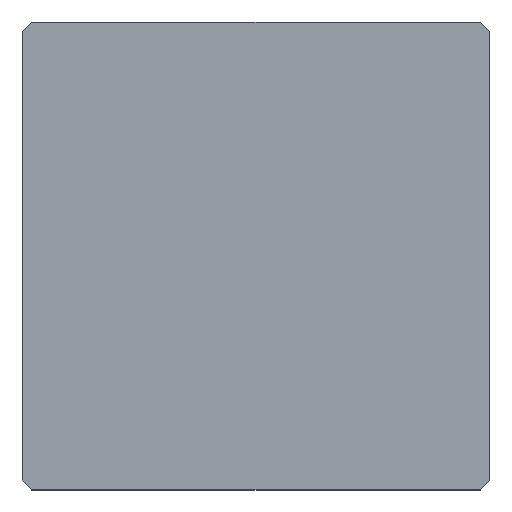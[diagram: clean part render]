
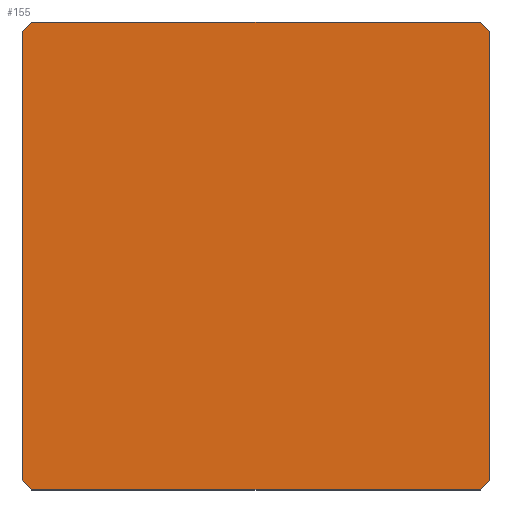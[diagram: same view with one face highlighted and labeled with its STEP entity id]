
A CAD part, top view. The second image highlights one B-rep face of the part: STEP entity #155.
In plain terms, the highlighted planar face has unit normal (0, 0, 1).
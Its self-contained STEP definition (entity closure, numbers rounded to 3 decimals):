
#39 = EDGE_CURVE('',#40,#42,#44,.T.);
#40 = VERTEX_POINT('',#41);
#41 = CARTESIAN_POINT('',(-10.,-9.6,16.75));
#42 = VERTEX_POINT('',#43);
#43 = CARTESIAN_POINT('',(-10.,9.6,16.75));
#44 = SURFACE_CURVE('',#45,(#49,#61),.PCURVE_S1.);
#45 = LINE('',#46,#47);
#46 = CARTESIAN_POINT('',(-10.,-10.,16.75));
#47 = VECTOR('',#48,1.);
#48 = DIRECTION('',(-0.,1.,0.));
#49 = PCURVE('',#50,#55);
#50 = PLANE('',#51);
#51 = AXIS2_PLACEMENT_3D('',#52,#53,#54);
#52 = CARTESIAN_POINT('',(-10.,-10.,0.));
#53 = DIRECTION('',(1.,0.,-0.));
#54 = DIRECTION('',(0.,0.,1.));
#55 = DEFINITIONAL_REPRESENTATION('',(#56),#60);
#56 = LINE('',#57,#58);
#57 = CARTESIAN_POINT('',(16.75,0.));
#58 = VECTOR('',#59,1.);
#59 = DIRECTION('',(0.,-1.));
#60 = ( GEOMETRIC_REPRESENTATION_CONTEXT(2) 
PARAMETRIC_REPRESENTATION_CONTEXT() REPRESENTATION_CONTEXT('2D SPACE',''
  ) );
#61 = PCURVE('',#62,#67);
#62 = PLANE('',#63);
#63 = AXIS2_PLACEMENT_3D('',#64,#65,#66);
#64 = CARTESIAN_POINT('',(-10.,-10.,16.75));
#65 = DIRECTION('',(0.,0.,1.));
#66 = DIRECTION('',(1.,0.,-0.));
#67 = DEFINITIONAL_REPRESENTATION('',(#68),#72);
#68 = LINE('',#69,#70);
#69 = CARTESIAN_POINT('',(0.,0.));
#70 = VECTOR('',#71,1.);
#71 = DIRECTION('',(0.,1.));
#72 = ( GEOMETRIC_REPRESENTATION_CONTEXT(2) 
PARAMETRIC_REPRESENTATION_CONTEXT() REPRESENTATION_CONTEXT('2D SPACE',''
  ) );
#90 = PLANE('',#91);
#91 = AXIS2_PLACEMENT_3D('',#92,#93,#94);
#92 = CARTESIAN_POINT('',(-9.8,-9.8,0.));
#93 = DIRECTION('',(-0.707,-0.707,0.));
#94 = DIRECTION('',(-0.,-0.,-1.));
#144 = PLANE('',#145);
#145 = AXIS2_PLACEMENT_3D('',#146,#147,#148);
#146 = CARTESIAN_POINT('',(-9.8,9.8,0.));
#147 = DIRECTION('',(0.707,-0.707,0.));
#148 = DIRECTION('',(-0.,-0.,-1.));
#155 = ADVANCED_FACE('',(#156),#62,.T.);
#156 = FACE_BOUND('',#157,.T.);
#157 = EDGE_LOOP('',(#158,#159,#182,#210,#238,#266,#294,#322));
#158 = ORIENTED_EDGE('',*,*,#39,.F.);
#159 = ORIENTED_EDGE('',*,*,#160,.T.);
#160 = EDGE_CURVE('',#40,#161,#163,.T.);
#161 = VERTEX_POINT('',#162);
#162 = CARTESIAN_POINT('',(-9.6,-10.,16.75));
#163 = SURFACE_CURVE('',#164,(#168,#175),.PCURVE_S1.);
#164 = LINE('',#165,#166);
#165 = CARTESIAN_POINT('',(-9.8,-9.8,16.75));
#166 = VECTOR('',#167,1.);
#167 = DIRECTION('',(0.707,-0.707,0.));
#168 = PCURVE('',#62,#169);
#169 = DEFINITIONAL_REPRESENTATION('',(#170),#174);
#170 = LINE('',#171,#172);
#171 = CARTESIAN_POINT('',(0.2,0.2));
#172 = VECTOR('',#173,1.);
#173 = DIRECTION('',(0.707,-0.707));
#174 = ( GEOMETRIC_REPRESENTATION_CONTEXT(2) 
PARAMETRIC_REPRESENTATION_CONTEXT() REPRESENTATION_CONTEXT('2D SPACE',''
  ) );
#175 = PCURVE('',#90,#176);
#176 = DEFINITIONAL_REPRESENTATION('',(#177),#181);
#177 = LINE('',#178,#179);
#178 = CARTESIAN_POINT('',(-16.75,0.));
#179 = VECTOR('',#180,1.);
#180 = DIRECTION('',(-0.,1.));
#181 = ( GEOMETRIC_REPRESENTATION_CONTEXT(2) 
PARAMETRIC_REPRESENTATION_CONTEXT() REPRESENTATION_CONTEXT('2D SPACE',''
  ) );
#182 = ORIENTED_EDGE('',*,*,#183,.T.);
#183 = EDGE_CURVE('',#161,#184,#186,.T.);
#184 = VERTEX_POINT('',#185);
#185 = CARTESIAN_POINT('',(9.6,-10.,16.75));
#186 = SURFACE_CURVE('',#187,(#191,#198),.PCURVE_S1.);
#187 = LINE('',#188,#189);
#188 = CARTESIAN_POINT('',(-10.,-10.,16.75));
#189 = VECTOR('',#190,1.);
#190 = DIRECTION('',(1.,0.,-0.));
#191 = PCURVE('',#62,#192);
#192 = DEFINITIONAL_REPRESENTATION('',(#193),#197);
#193 = LINE('',#194,#195);
#194 = CARTESIAN_POINT('',(0.,0.));
#195 = VECTOR('',#196,1.);
#196 = DIRECTION('',(1.,0.));
#197 = ( GEOMETRIC_REPRESENTATION_CONTEXT(2) 
PARAMETRIC_REPRESENTATION_CONTEXT() REPRESENTATION_CONTEXT('2D SPACE',''
  ) );
#198 = PCURVE('',#199,#204);
#199 = PLANE('',#200);
#200 = AXIS2_PLACEMENT_3D('',#201,#202,#203);
#201 = CARTESIAN_POINT('',(-10.,-10.,0.));
#202 = DIRECTION('',(-0.,1.,0.));
#203 = DIRECTION('',(0.,0.,1.));
#204 = DEFINITIONAL_REPRESENTATION('',(#205),#209);
#205 = LINE('',#206,#207);
#206 = CARTESIAN_POINT('',(16.75,0.));
#207 = VECTOR('',#208,1.);
#208 = DIRECTION('',(0.,1.));
#209 = ( GEOMETRIC_REPRESENTATION_CONTEXT(2) 
PARAMETRIC_REPRESENTATION_CONTEXT() REPRESENTATION_CONTEXT('2D SPACE',''
  ) );
#210 = ORIENTED_EDGE('',*,*,#211,.F.);
#211 = EDGE_CURVE('',#212,#184,#214,.T.);
#212 = VERTEX_POINT('',#213);
#213 = CARTESIAN_POINT('',(10.,-9.6,16.75));
#214 = SURFACE_CURVE('',#215,(#219,#226),.PCURVE_S1.);
#215 = LINE('',#216,#217);
#216 = CARTESIAN_POINT('',(4.8,-14.8,16.75));
#217 = VECTOR('',#218,1.);
#218 = DIRECTION('',(-0.707,-0.707,0.));
#219 = PCURVE('',#62,#220);
#220 = DEFINITIONAL_REPRESENTATION('',(#221),#225);
#221 = LINE('',#222,#223);
#222 = CARTESIAN_POINT('',(14.8,-4.8));
#223 = VECTOR('',#224,1.);
#224 = DIRECTION('',(-0.707,-0.707));
#225 = ( GEOMETRIC_REPRESENTATION_CONTEXT(2) 
PARAMETRIC_REPRESENTATION_CONTEXT() REPRESENTATION_CONTEXT('2D SPACE',''
  ) );
#226 = PCURVE('',#227,#232);
#227 = PLANE('',#228);
#228 = AXIS2_PLACEMENT_3D('',#229,#230,#231);
#229 = CARTESIAN_POINT('',(9.8,-9.8,0.));
#230 = DIRECTION('',(-0.707,0.707,0.));
#231 = DIRECTION('',(-0.,-0.,-1.));
#232 = DEFINITIONAL_REPRESENTATION('',(#233),#237);
#233 = LINE('',#234,#235);
#234 = CARTESIAN_POINT('',(-16.75,7.071));
#235 = VECTOR('',#236,1.);
#236 = DIRECTION('',(-0.,1.));
#237 = ( GEOMETRIC_REPRESENTATION_CONTEXT(2) 
PARAMETRIC_REPRESENTATION_CONTEXT() REPRESENTATION_CONTEXT('2D SPACE',''
  ) );
#238 = ORIENTED_EDGE('',*,*,#239,.T.);
#239 = EDGE_CURVE('',#212,#240,#242,.T.);
#240 = VERTEX_POINT('',#241);
#241 = CARTESIAN_POINT('',(10.,9.6,16.75));
#242 = SURFACE_CURVE('',#243,(#247,#254),.PCURVE_S1.);
#243 = LINE('',#244,#245);
#244 = CARTESIAN_POINT('',(10.,-10.,16.75));
#245 = VECTOR('',#246,1.);
#246 = DIRECTION('',(-0.,1.,0.));
#247 = PCURVE('',#62,#248);
#248 = DEFINITIONAL_REPRESENTATION('',(#249),#253);
#249 = LINE('',#250,#251);
#250 = CARTESIAN_POINT('',(20.,0.));
#251 = VECTOR('',#252,1.);
#252 = DIRECTION('',(0.,1.));
#253 = ( GEOMETRIC_REPRESENTATION_CONTEXT(2) 
PARAMETRIC_REPRESENTATION_CONTEXT() REPRESENTATION_CONTEXT('2D SPACE',''
  ) );
#254 = PCURVE('',#255,#260);
#255 = PLANE('',#256);
#256 = AXIS2_PLACEMENT_3D('',#257,#258,#259);
#257 = CARTESIAN_POINT('',(10.,-10.,0.));
#258 = DIRECTION('',(1.,0.,-0.));
#259 = DIRECTION('',(0.,0.,1.));
#260 = DEFINITIONAL_REPRESENTATION('',(#261),#265);
#261 = LINE('',#262,#263);
#262 = CARTESIAN_POINT('',(16.75,0.));
#263 = VECTOR('',#264,1.);
#264 = DIRECTION('',(0.,-1.));
#265 = ( GEOMETRIC_REPRESENTATION_CONTEXT(2) 
PARAMETRIC_REPRESENTATION_CONTEXT() REPRESENTATION_CONTEXT('2D SPACE',''
  ) );
#266 = ORIENTED_EDGE('',*,*,#267,.T.);
#267 = EDGE_CURVE('',#240,#268,#270,.T.);
#268 = VERTEX_POINT('',#269);
#269 = CARTESIAN_POINT('',(9.6,10.,16.75));
#270 = SURFACE_CURVE('',#271,(#275,#282),.PCURVE_S1.);
#271 = LINE('',#272,#273);
#272 = CARTESIAN_POINT('',(9.8,9.8,16.75));
#273 = VECTOR('',#274,1.);
#274 = DIRECTION('',(-0.707,0.707,0.));
#275 = PCURVE('',#62,#276);
#276 = DEFINITIONAL_REPRESENTATION('',(#277),#281);
#277 = LINE('',#278,#279);
#278 = CARTESIAN_POINT('',(19.8,19.8));
#279 = VECTOR('',#280,1.);
#280 = DIRECTION('',(-0.707,0.707));
#281 = ( GEOMETRIC_REPRESENTATION_CONTEXT(2) 
PARAMETRIC_REPRESENTATION_CONTEXT() REPRESENTATION_CONTEXT('2D SPACE',''
  ) );
#282 = PCURVE('',#283,#288);
#283 = PLANE('',#284);
#284 = AXIS2_PLACEMENT_3D('',#285,#286,#287);
#285 = CARTESIAN_POINT('',(9.8,9.8,0.));
#286 = DIRECTION('',(0.707,0.707,0.));
#287 = DIRECTION('',(-0.,0.,-1.));
#288 = DEFINITIONAL_REPRESENTATION('',(#289),#293);
#289 = LINE('',#290,#291);
#290 = CARTESIAN_POINT('',(-16.75,0.));
#291 = VECTOR('',#292,1.);
#292 = DIRECTION('',(-0.,1.));
#293 = ( GEOMETRIC_REPRESENTATION_CONTEXT(2) 
PARAMETRIC_REPRESENTATION_CONTEXT() REPRESENTATION_CONTEXT('2D SPACE',''
  ) );
#294 = ORIENTED_EDGE('',*,*,#295,.F.);
#295 = EDGE_CURVE('',#296,#268,#298,.T.);
#296 = VERTEX_POINT('',#297);
#297 = CARTESIAN_POINT('',(-9.6,10.,16.75));
#298 = SURFACE_CURVE('',#299,(#303,#310),.PCURVE_S1.);
#299 = LINE('',#300,#301);
#300 = CARTESIAN_POINT('',(-10.,10.,16.75));
#301 = VECTOR('',#302,1.);
#302 = DIRECTION('',(1.,0.,-0.));
#303 = PCURVE('',#62,#304);
#304 = DEFINITIONAL_REPRESENTATION('',(#305),#309);
#305 = LINE('',#306,#307);
#306 = CARTESIAN_POINT('',(0.,20.));
#307 = VECTOR('',#308,1.);
#308 = DIRECTION('',(1.,0.));
#309 = ( GEOMETRIC_REPRESENTATION_CONTEXT(2) 
PARAMETRIC_REPRESENTATION_CONTEXT() REPRESENTATION_CONTEXT('2D SPACE',''
  ) );
#310 = PCURVE('',#311,#316);
#311 = PLANE('',#312);
#312 = AXIS2_PLACEMENT_3D('',#313,#314,#315);
#313 = CARTESIAN_POINT('',(-10.,10.,0.));
#314 = DIRECTION('',(-0.,1.,0.));
#315 = DIRECTION('',(0.,0.,1.));
#316 = DEFINITIONAL_REPRESENTATION('',(#317),#321);
#317 = LINE('',#318,#319);
#318 = CARTESIAN_POINT('',(16.75,0.));
#319 = VECTOR('',#320,1.);
#320 = DIRECTION('',(0.,1.));
#321 = ( GEOMETRIC_REPRESENTATION_CONTEXT(2) 
PARAMETRIC_REPRESENTATION_CONTEXT() REPRESENTATION_CONTEXT('2D SPACE',''
  ) );
#322 = ORIENTED_EDGE('',*,*,#323,.F.);
#323 = EDGE_CURVE('',#42,#296,#324,.T.);
#324 = SURFACE_CURVE('',#325,(#329,#336),.PCURVE_S1.);
#325 = LINE('',#326,#327);
#326 = CARTESIAN_POINT('',(-14.8,4.8,16.75));
#327 = VECTOR('',#328,1.);
#328 = DIRECTION('',(0.707,0.707,-0.));
#329 = PCURVE('',#62,#330);
#330 = DEFINITIONAL_REPRESENTATION('',(#331),#335);
#331 = LINE('',#332,#333);
#332 = CARTESIAN_POINT('',(-4.8,14.8));
#333 = VECTOR('',#334,1.);
#334 = DIRECTION('',(0.707,0.707));
#335 = ( GEOMETRIC_REPRESENTATION_CONTEXT(2) 
PARAMETRIC_REPRESENTATION_CONTEXT() REPRESENTATION_CONTEXT('2D SPACE',''
  ) );
#336 = PCURVE('',#144,#337);
#337 = DEFINITIONAL_REPRESENTATION('',(#338),#342);
#338 = LINE('',#339,#340);
#339 = CARTESIAN_POINT('',(-16.75,-7.071));
#340 = VECTOR('',#341,1.);
#341 = DIRECTION('',(-0.,1.));
#342 = ( GEOMETRIC_REPRESENTATION_CONTEXT(2) 
PARAMETRIC_REPRESENTATION_CONTEXT() REPRESENTATION_CONTEXT('2D SPACE',''
  ) );
